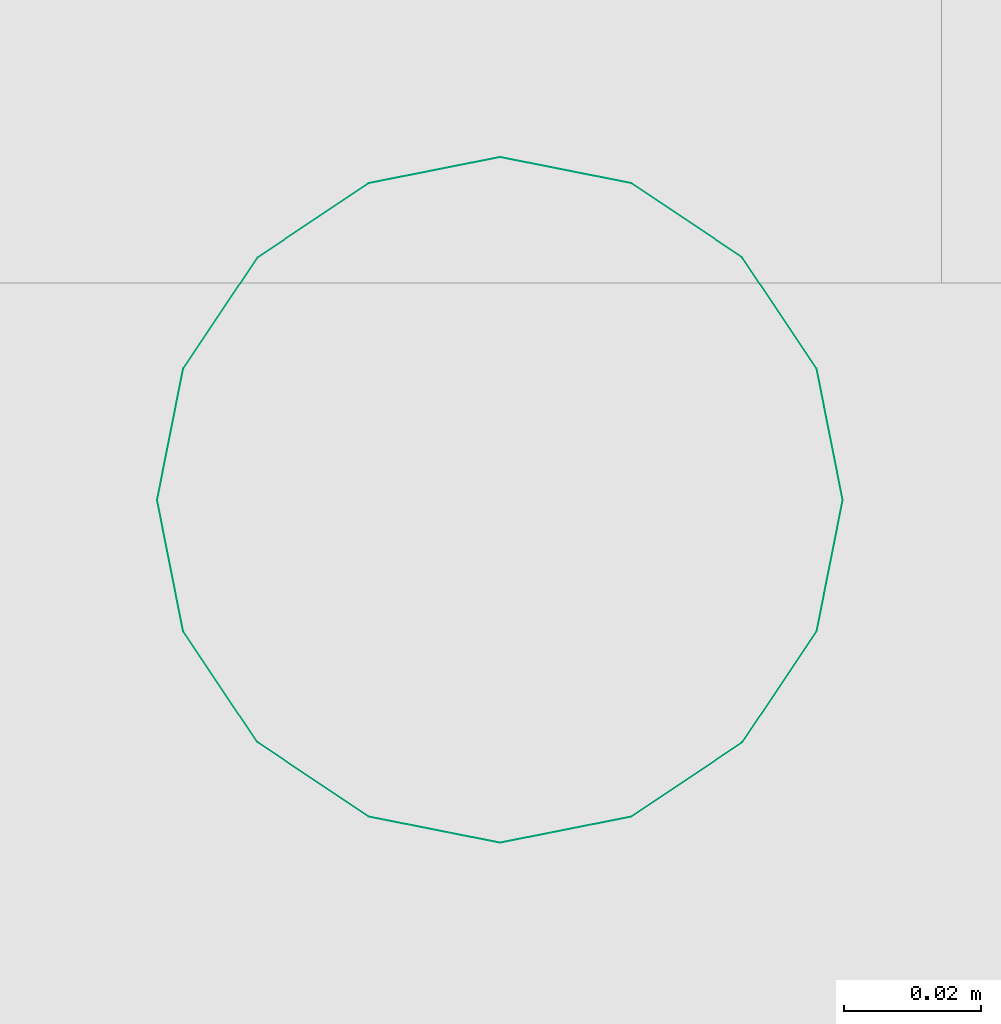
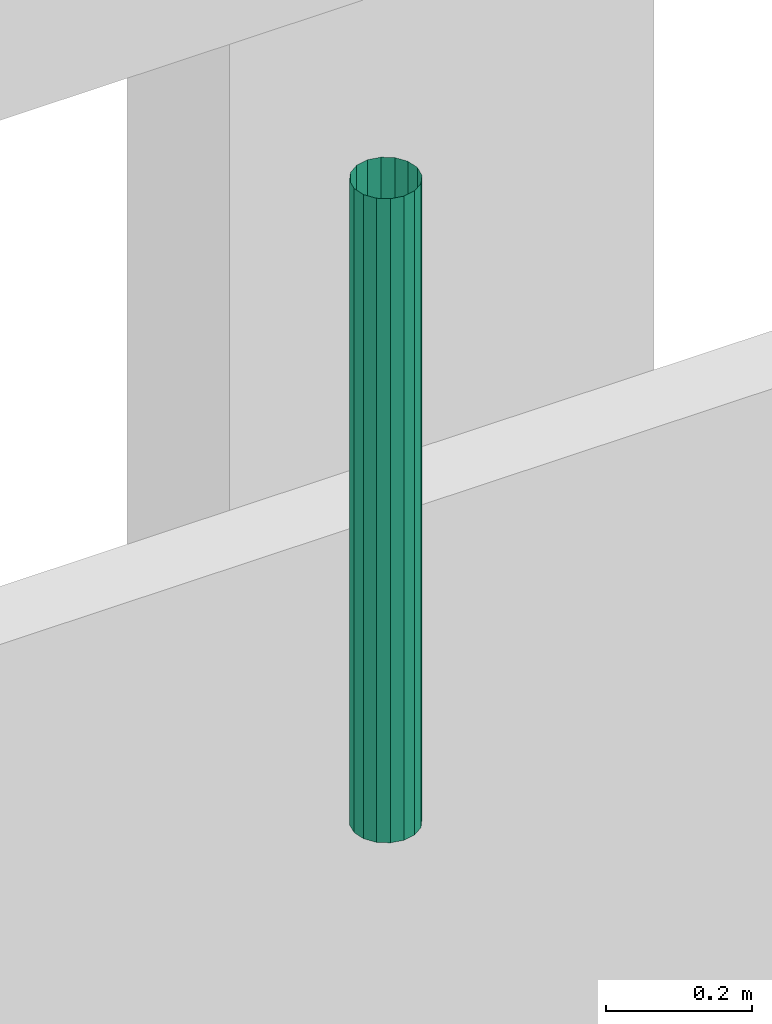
# One storey, part 42 of 106: 1 flow segment.
"""IFC2X3 building model written with IfcOpenShell, lengths in metres."""

from ifc_helpers import new_model, entity, si_unit, converted_unit, derived_unit, money_unit, direction, frame, origin_with_axes, place, context, subcontext, project, spatial, faceted_brep, material, type_object, element, save


model = new_model("IFC2X3")

# Units and contexts
model_context = context("Model", 3, precision=1e-05, world=origin_with_axes(), true_north=direction((0.0, 1.0)))
body_context = subcontext(model_context, "Body", "Model", "MODEL_VIEW", scale=1.0)
ifc_project = project(units=[si_unit("LENGTHUNIT", "METRE"), si_unit("AREAUNIT", "SQUARE_METRE"), si_unit("VOLUMEUNIT", "CUBIC_METRE"), si_unit("ABSORBEDDOSEUNIT", "GRAY"), si_unit("AMOUNTOFSUBSTANCEUNIT", "MOLE"), si_unit("DOSEEQUIVALENTUNIT", "SIEVERT"), si_unit("ELECTRICCAPACITANCEUNIT", "FARAD"), si_unit("ELECTRICCHARGEUNIT", "COULOMB"), si_unit("ELECTRICCONDUCTANCEUNIT", "SIEMENS"), si_unit("ELECTRICCURRENTUNIT", "AMPERE"), si_unit("ELECTRICRESISTANCEUNIT", "OHM"), si_unit("ELECTRICVOLTAGEUNIT", "VOLT"), si_unit("ENERGYUNIT", "JOULE"), si_unit("FORCEUNIT", "NEWTON"), si_unit("FREQUENCYUNIT", "HERTZ"), si_unit("ILLUMINANCEUNIT", "LUX"), si_unit("INDUCTANCEUNIT", "HENRY"), si_unit("LUMINOUSFLUXUNIT", "LUMEN"), si_unit("LUMINOUSINTENSITYUNIT", "CANDELA"), si_unit("MAGNETICFLUXDENSITYUNIT", "TESLA"), si_unit("MAGNETICFLUXUNIT", "WEBER"), si_unit("MASSUNIT", "GRAM"), converted_unit("PLANEANGLEUNIT", "degree", entity("IfcReal", 0.0174532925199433), si_unit("PLANEANGLEUNIT", "RADIAN"), dimensions=[0, 0, 0, 0, 0, 0, 0]), si_unit("POWERUNIT", "WATT"), si_unit("PRESSUREUNIT", "PASCAL"), si_unit("RADIOACTIVITYUNIT", "BECQUEREL"), si_unit("SOLIDANGLEUNIT", "STERADIAN"), si_unit("THERMODYNAMICTEMPERATUREUNIT", "KELVIN"), si_unit("TIMEUNIT", "SECOND"), derived_unit("ACCELERATIONUNIT", [(si_unit("LENGTHUNIT", "METRE"), 1), (si_unit("TIMEUNIT", "SECOND"), -2)]), derived_unit("ANGULARVELOCITYUNIT", [(converted_unit("PLANEANGLEUNIT", "degree", entity("IfcReal", 0.0174532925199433), si_unit("PLANEANGLEUNIT", "RADIAN"), dimensions=[0, 0, 0, 0, 0, 0, 0]), 1), (si_unit("TIMEUNIT", "SECOND"), -1)]), derived_unit("CURVATUREUNIT", [(converted_unit("PLANEANGLEUNIT", "degree", entity("IfcReal", 0.0174532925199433), si_unit("PLANEANGLEUNIT", "RADIAN"), dimensions=[0, 0, 0, 0, 0, 0, 0]), 1), (si_unit("LENGTHUNIT", "METRE"), -1)]), derived_unit("DYNAMICVISCOSITYUNIT", [(si_unit("PRESSUREUNIT", "PASCAL"), 1), (si_unit("TIMEUNIT", "SECOND"), 1)]), derived_unit("HEATFLUXDENSITYUNIT", [(si_unit("POWERUNIT", "WATT"), 1), (si_unit("LENGTHUNIT", "METRE"), -2)]), derived_unit("HEATINGVALUEUNIT", [(si_unit("ENERGYUNIT", "JOULE"), 1), (si_unit("MASSUNIT", "GRAM"), -1)]), derived_unit("INTEGERCOUNTRATEUNIT", [(si_unit("TIMEUNIT", "SECOND"), -1)]), derived_unit("IONCONCENTRATIONUNIT", [(si_unit("MASSUNIT", "GRAM"), 1), (si_unit("VOLUMEUNIT", "CUBIC_METRE"), -1)]), derived_unit("ISOTHERMALMOISTURECAPACITYUNIT", [(si_unit("VOLUMEUNIT", "CUBIC_METRE"), 1), (si_unit("MASSUNIT", "GRAM"), -1)]), derived_unit("KINEMATICVISCOSITYUNIT", [(si_unit("AREAUNIT", "SQUARE_METRE"), 1), (si_unit("TIMEUNIT", "SECOND"), -1)]), derived_unit("LINEARFORCEUNIT", [(si_unit("FORCEUNIT", "NEWTON"), 1), (si_unit("LENGTHUNIT", "METRE"), -1)]), derived_unit("LINEARMOMENTUNIT", [(si_unit("FORCEUNIT", "NEWTON"), 1), (si_unit("LENGTHUNIT", "METRE"), -1)]), derived_unit("LINEARSTIFFNESSUNIT", [(si_unit("FORCEUNIT", "NEWTON"), 1), (si_unit("LENGTHUNIT", "METRE"), -1)]), derived_unit("LINEARVELOCITYUNIT", [(si_unit("LENGTHUNIT", "METRE"), 1), (si_unit("TIMEUNIT", "SECOND"), -1)]), derived_unit("LUMINOUSINTENSITYDISTRIBUTIONUNIT", [(si_unit("LUMINOUSINTENSITYUNIT", "CANDELA"), 1), (si_unit("LUMINOUSFLUXUNIT", "LUMEN"), -1)]), derived_unit("MASSDENSITYUNIT", [(si_unit("MASSUNIT", "GRAM"), 1), (si_unit("VOLUMEUNIT", "CUBIC_METRE"), -1)]), derived_unit("MASSFLOWRATEUNIT", [(si_unit("MASSUNIT", "GRAM"), 1), (si_unit("TIMEUNIT", "SECOND"), -1)]), derived_unit("MASSPERLENGTHUNIT", [(si_unit("MASSUNIT", "GRAM"), 1), (si_unit("LENGTHUNIT", "METRE"), -1)]), derived_unit("MODULUSOFELASTICITYUNIT", [(si_unit("FORCEUNIT", "NEWTON"), 1), (si_unit("AREAUNIT", "SQUARE_METRE"), -1)]), derived_unit("MODULUSOFLINEARSUBGRADEREACTIONUNIT", [(si_unit("FORCEUNIT", "NEWTON"), 1), (si_unit("LENGTHUNIT", "METRE"), -2)]), derived_unit("MODULUSOFROTATIONALSUBGRADEREACTIONUNIT", [(si_unit("FORCEUNIT", "NEWTON"), 1), (si_unit("LENGTHUNIT", "METRE"), 1)]), derived_unit("MODULUSOFSUBGRADEREACTIONUNIT", [(si_unit("FORCEUNIT", "NEWTON"), 1), (si_unit("VOLUMEUNIT", "CUBIC_METRE"), -1)]), derived_unit("MOISTUREDIFFUSIVITYUNIT", [(si_unit("VOLUMEUNIT", "CUBIC_METRE"), 1), (si_unit("TIMEUNIT", "SECOND"), -1)]), derived_unit("MOLECULARWEIGHTUNIT", [(si_unit("MASSUNIT", "GRAM"), 1), (si_unit("AMOUNTOFSUBSTANCEUNIT", "MOLE"), -1)]), derived_unit("PLANARFORCEUNIT", [(si_unit("FORCEUNIT", "NEWTON"), 1), (si_unit("LENGTHUNIT", "METRE"), -2)]), derived_unit("ROTATIONALFREQUENCYUNIT", [(si_unit("TIMEUNIT", "SECOND"), -1)]), derived_unit("ROTATIONALMASSUNIT", [(si_unit("MASSUNIT", "GRAM"), 1), (si_unit("LENGTHUNIT", "METRE"), 2)]), derived_unit("ROTATIONALSTIFFNESSUNIT", [(si_unit("FORCEUNIT", "NEWTON"), 1), (si_unit("LENGTHUNIT", "METRE"), 1), (converted_unit("PLANEANGLEUNIT", "degree", entity("IfcReal", 0.0174532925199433), si_unit("PLANEANGLEUNIT", "RADIAN"), dimensions=[0, 0, 0, 0, 0, 0, 0]), -1)]), derived_unit("SECTIONAREAINTEGRALUNIT", [(si_unit("LENGTHUNIT", "METRE"), 5)]), derived_unit("SECTIONMODULUSUNIT", [(si_unit("LENGTHUNIT", "METRE"), 3)]), derived_unit("SHEARMODULUSUNIT", [(si_unit("FORCEUNIT", "NEWTON"), 1), (si_unit("AREAUNIT", "SQUARE_METRE"), -1)]), derived_unit("SOUNDPOWERUNIT", [(si_unit("ENERGYUNIT", "JOULE"), 1), (si_unit("TIMEUNIT", "SECOND"), -1)]), derived_unit("SPECIFICHEATCAPACITYUNIT", [(si_unit("FORCEUNIT", "NEWTON"), 1), (si_unit("MASSUNIT", "GRAM"), -1), (si_unit("THERMODYNAMICTEMPERATUREUNIT", "KELVIN"), -1)]), derived_unit("TEMPERATUREGRADIENTUNIT", [(si_unit("THERMODYNAMICTEMPERATUREUNIT", "KELVIN"), 1), (si_unit("LENGTHUNIT", "METRE"), -1)]), derived_unit("THERMALADMITTANCEUNIT", [(si_unit("POWERUNIT", "WATT"), 1), (si_unit("AREAUNIT", "SQUARE_METRE"), -1), (si_unit("THERMODYNAMICTEMPERATUREUNIT", "KELVIN"), -1)]), derived_unit("THERMALCONDUCTANCEUNIT", [(si_unit("POWERUNIT", "WATT"), 1), (si_unit("LENGTHUNIT", "METRE"), -1), (si_unit("THERMODYNAMICTEMPERATUREUNIT", "KELVIN"), -1)]), derived_unit("THERMALEXPANSIONCOEFFICIENTUNIT", [(si_unit("THERMODYNAMICTEMPERATUREUNIT", "KELVIN"), -1)]), derived_unit("THERMALRESISTANCEUNIT", [(si_unit("AREAUNIT", "SQUARE_METRE"), 1), (si_unit("POWERUNIT", "WATT"), -1)]), derived_unit("THERMALTRANSMITTANCEUNIT", [(si_unit("POWERUNIT", "WATT"), 1), (si_unit("AREAUNIT", "SQUARE_METRE"), -1), (si_unit("THERMODYNAMICTEMPERATUREUNIT", "KELVIN"), -1)]), derived_unit("TORQUEUNIT", [(si_unit("FORCEUNIT", "NEWTON"), 1), (si_unit("LENGTHUNIT", "METRE"), 1)]), derived_unit("VAPORPERMEABILITYUNIT", [(si_unit("MASSUNIT", "GRAM"), 1), (si_unit("TIMEUNIT", "SECOND"), -1)]), derived_unit("VOLUMETRICFLOWRATEUNIT", [(si_unit("VOLUMEUNIT", "CUBIC_METRE"), 1), (si_unit("TIMEUNIT", "SECOND"), -1)]), derived_unit("WARPINGCONSTANTUNIT", [(si_unit("LENGTHUNIT", "METRE"), 6)]), derived_unit("WARPINGMOMENTUNIT", [(si_unit("FORCEUNIT", "NEWTON"), 1), (si_unit("LENGTHUNIT", "METRE"), 2)]), money_unit("GBP")], contexts=[model_context])

# Site, building, storey
site_placement = place(None, origin_with_axes())
site = spatial("IfcSite", under=ifc_project, at=site_placement, Name="Site", CompositionType="ELEMENT")
building_placement = place(site_placement, origin_with_axes())
building = spatial("IfcBuilding", under=site, at=building_placement, Name="Building01", CompositionType="ELEMENT")
storey_placement = place(building_placement, origin_with_axes())
storey = spatial("IfcBuildingStorey", under=building, at=storey_placement, Name="GF", CompositionType="ELEMENT", Elevation=0.0)

# Flow segment
ifc_material = material(Name="M_BSUK_Ventilation")
duct_segment_type = type_object("IfcDuctSegmentType", Name="M-RoundDuct", PredefinedType="RIGIDSEGMENT")
flow_segment_placement = place(storey_placement, frame((13.102063, 6.318322, 19.98), z_axis=(1.0, 0.0, 0.0), x_axis=(0.0, 0.0, 1.0)))
element("IfcFlowSegment", 1, at=flow_segment_placement, inside=storey, type_object=duct_segment_type, material=ifc_material, Name="M-RoundDuct", ObjectType="M-RoundDuct", context=body_context, shape_type="Brep", body=[
    faceted_brep([(1.075, 0.0, -0.05), (0.0, 0.0, -0.05), (0.0, 0.019134, -0.046194), (1.075, 0.019134, -0.046194), (0.0, 0.035355, -0.035355), (1.075, 0.035355, -0.035355), (0.0, 0.046194, -0.019134), (1.075, 0.046194, -0.019134), (0.0, 0.05, 0.0), (1.075, 0.05, 0.0), (0.0, 0.046194, 0.019134), (1.075, 0.046194, 0.019134), (0.0, 0.035355, 0.035355), (1.075, 0.035355, 0.035355), (0.0, 0.019134, 0.046194), (1.075, 0.019134, 0.046194), (0.0, 0.0, 0.05), (1.075, 0.0, 0.05), (0.0, -0.019134, 0.046194), (1.075, -0.019134, 0.046194), (0.0, -0.035355, 0.035355), (1.075, -0.035355, 0.035355), (0.0, -0.046194, 0.019134), (1.075, -0.046194, 0.019134), (0.0, -0.05, 0.0), (1.075, -0.05, 0.0), (0.0, -0.046194, -0.019134), (1.075, -0.046194, -0.019134), (0.0, -0.035355, -0.035355), (1.075, -0.035355, -0.035355), (0.0, -0.019134, -0.046194), (1.075, -0.019134, -0.046194)], [[[0, 1, 2, 3]], [[3, 2, 4, 5]], [[5, 4, 6, 7]], [[7, 6, 8, 9]], [[9, 8, 10, 11]], [[11, 10, 12, 13]], [[13, 12, 14, 15]], [[15, 14, 16, 17]], [[17, 16, 18, 19]], [[19, 18, 20, 21]], [[21, 20, 22, 23]], [[23, 22, 24, 25]], [[25, 24, 26, 27]], [[27, 26, 28, 29]], [[29, 28, 30, 31]], [[31, 30, 1, 0]]]),
])

save(model, "model.ifc")
